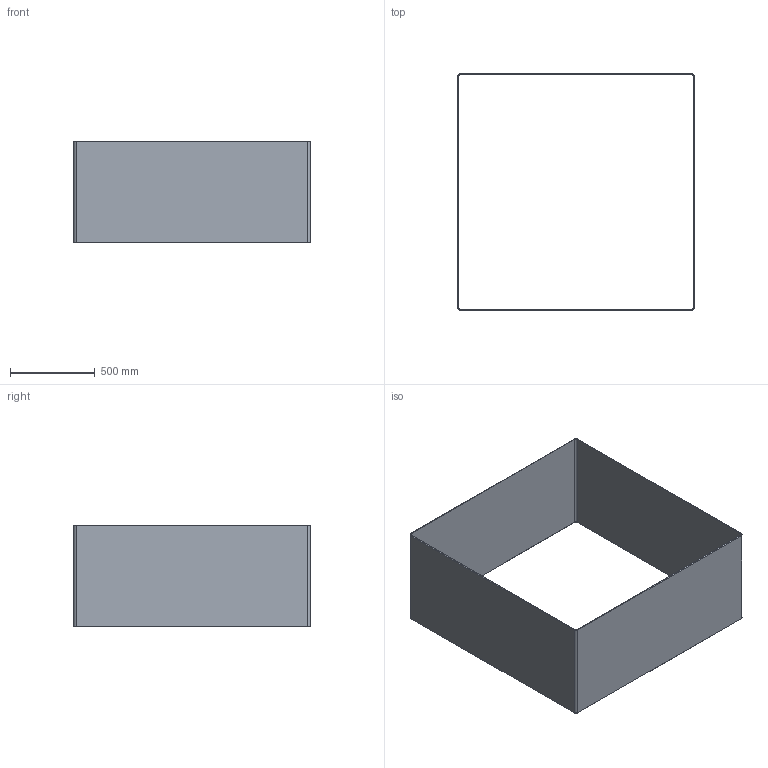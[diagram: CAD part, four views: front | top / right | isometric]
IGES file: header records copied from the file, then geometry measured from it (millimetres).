
Global section: file name: No Iges File Name specified; native system: AutoDesk Inventor R11.0; preprocessor: AutoDesk Inventor Iges Exporter R11.0; author: No Author specified; organization: No Organization specified; date: 20070925.065212; units: millimetre
Bounding box: 1392 x 1392 x 600 mm (x, y, z)
Volume: 16568923.2 mm3; surface area: 6679972.9 mm2
Topology: 1 solids, 1 shells, 26 faces, 64 edges, 40 vertices
Faces by surface type: plane 10, cylinder 8, torus 4, revolution 4
